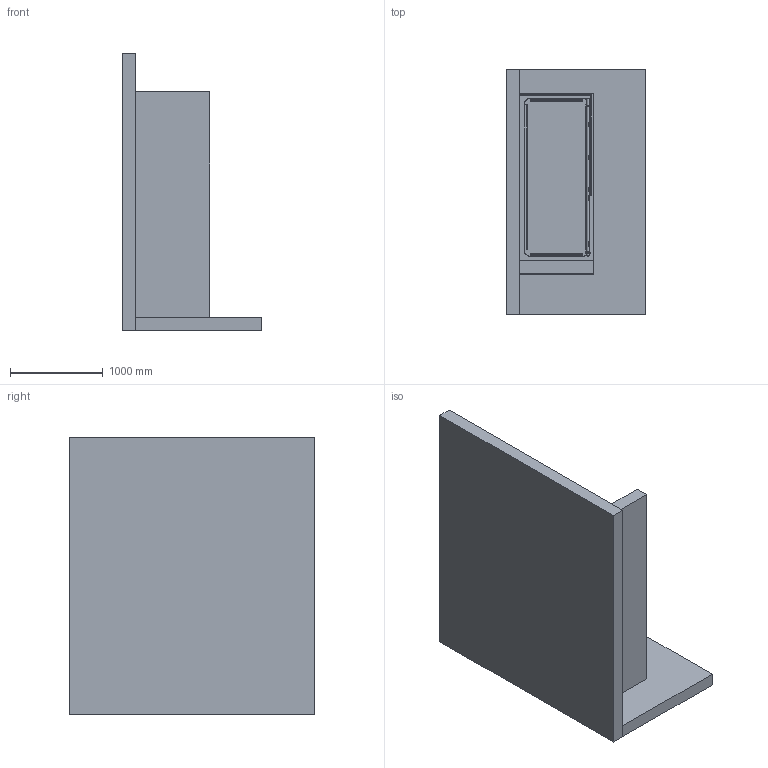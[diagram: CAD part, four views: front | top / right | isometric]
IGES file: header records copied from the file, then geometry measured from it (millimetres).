
Start section:  Autodesk Design for Windows version 2010 IGES version 5.3  Autodesk Design for Windows version 2010 IGES version 5.3
Global section: file name: \\Archi-NAS\Comune\X GIOVANNI\SCHEDE PRODOTTO\BOX DOCCIA\DISEGNI 3D\ST 200\MOMA DESIGN_BOX DOCCIA_ST202.igs; native system: Rhinoceros ( Jan 17 2018 ); preprocessor: Trout Lake IGES 012 Jan 17 2018; date: 230622.152008; units: millimetre
Bounding box: 1502.28 x 2641.25 x 2983.36 mm (x, y, z)
Surface area: 41742124.3 mm2 (no closed solid volume)
Topology: 0 solids, 0 shells, 321 faces, 1592 edges, 1563 vertices
Faces by surface type: bspline 321
